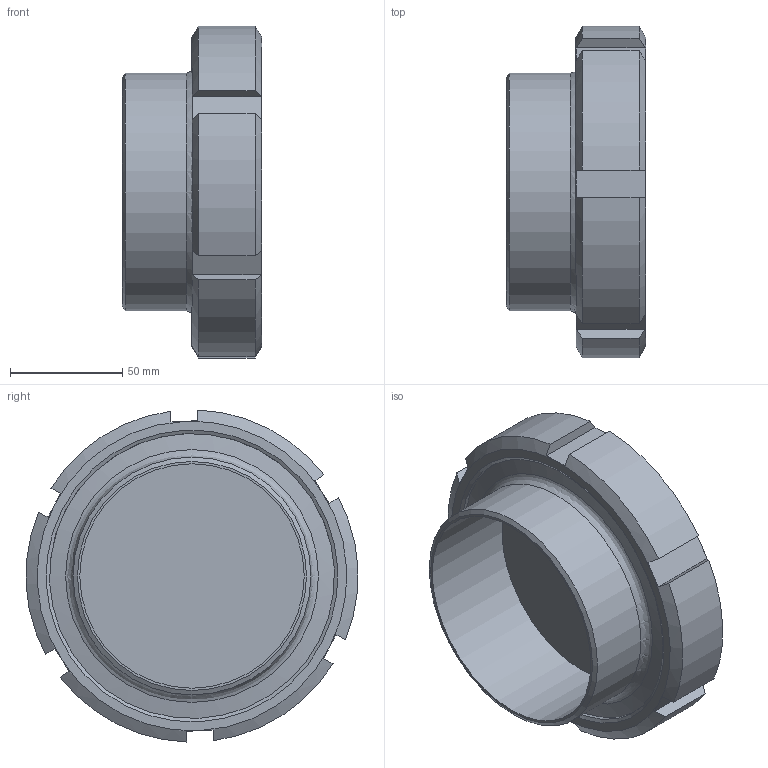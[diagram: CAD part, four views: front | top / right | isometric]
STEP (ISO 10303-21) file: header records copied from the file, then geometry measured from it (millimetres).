
FILE_DESCRIPTION((''),'2;1');
FILE_NAME('K:\2013 konstrukce\5xxxx\51510-MATICOVÉ PRŮHLEDÍTKO\51510-100.stp','2021-01-22T05:57:39',('konstrukce3'),(''),'Autodesk Inventor 2010','Autodesk Inventor 2010','');
FILE_SCHEMA(('AUTOMOTIVE_DESIGN { 1 0 10303 214 1 1 1 1 }'));
Length unit declared in the file: millimetre
Products named in the file (1): Součást1
Bounding box: 62 x 147.82 x 147.92 mm (x, y, z)
Volume: 369353 mm3; surface area: 91771.4 mm2
Topology: 1 solids, 4 shells, 65 faces, 148 edges, 95 vertices
Faces by surface type: plane 30, cylinder 16, cone 16, torus 2, bspline 1
Full cylindrical faces by diameter (mm): 100 x1, 104 x1, 106 x1, 113.8 x1, 115 x1, 119 x1, 120 x1, 125 x1, 127 x2
Entity records: 1785 total; most frequent: CARTESIAN_POINT 416, DIRECTION 256, ORIENTED_EDGE 246, EDGE_CURVE 123, AXIS2_PLACEMENT_3D 116, EDGE_LOOP 92, VERTEX_POINT 87, STYLED_ITEM 66
